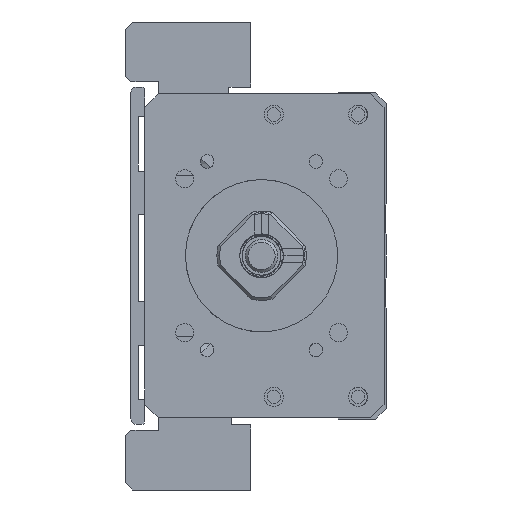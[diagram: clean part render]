
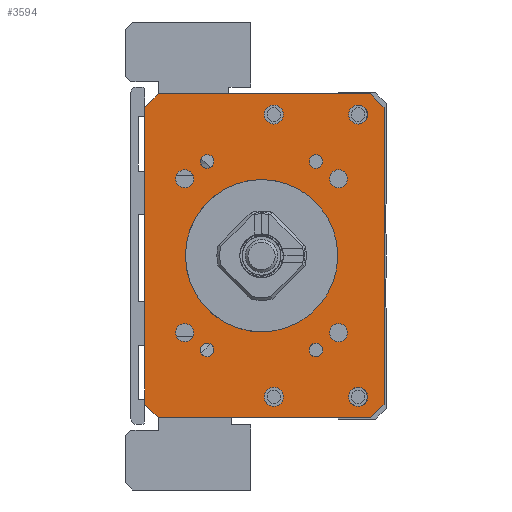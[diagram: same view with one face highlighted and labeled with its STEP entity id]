
A CAD part, left-side view. The second image highlights one B-rep face of the part: STEP entity #3594.
In plain terms, the highlighted planar face has unit normal (-1, 0, 0).
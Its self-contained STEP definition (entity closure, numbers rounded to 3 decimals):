
#826=LINE('',#19589,#1801);
#828=LINE('',#19613,#1803);
#829=LINE('',#19615,#1804);
#830=LINE('',#19617,#1805);
#831=LINE('',#19619,#1806);
#832=LINE('',#19621,#1807);
#833=LINE('',#19623,#1808);
#834=LINE('',#19625,#1809);
#1801=VECTOR('',#15565,1.);
#1803=VECTOR('',#15589,1.);
#1804=VECTOR('',#15590,1.);
#1805=VECTOR('',#15591,1.);
#1806=VECTOR('',#15592,1.);
#1807=VECTOR('',#15593,1.);
#1808=VECTOR('',#15594,1.);
#1809=VECTOR('',#15595,1.);
#3006=FACE_BOUND('',#5516,.T.);
#3007=FACE_BOUND('',#5517,.T.);
#3008=FACE_BOUND('',#5518,.T.);
#3009=FACE_BOUND('',#5519,.T.);
#3010=FACE_BOUND('',#5520,.T.);
#3011=FACE_BOUND('',#5521,.T.);
#3012=FACE_BOUND('',#5522,.T.);
#3013=FACE_BOUND('',#5523,.T.);
#3014=FACE_BOUND('',#5524,.T.);
#3015=FACE_BOUND('',#5525,.T.);
#3016=FACE_BOUND('',#5526,.T.);
#3017=FACE_BOUND('',#5527,.T.);
#3018=FACE_BOUND('',#5528,.T.);
#3019=FACE_BOUND('',#5529,.T.);
#3594=ADVANCED_FACE('',(#3006,#3007,#3008,#3009,#3010,#3011,#3012,#3013,
#3014,#3015,#3016,#3017,#3018,#3019),#4225,.F.);
#4225=PLANE('',#13396);
#5516=EDGE_LOOP('',(#7410));
#5517=EDGE_LOOP('',(#7411));
#5518=EDGE_LOOP('',(#7412));
#5519=EDGE_LOOP('',(#7413));
#5520=EDGE_LOOP('',(#7414));
#5521=EDGE_LOOP('',(#7415));
#5522=EDGE_LOOP('',(#7416));
#5523=EDGE_LOOP('',(#7417));
#5524=EDGE_LOOP('',(#7418));
#5525=EDGE_LOOP('',(#7419,#7420,#7421,#7422,#7423,#7424,#7425,#7426));
#5526=EDGE_LOOP('',(#7427));
#5527=EDGE_LOOP('',(#7428));
#5528=EDGE_LOOP('',(#7429));
#5529=EDGE_LOOP('',(#7430));
#7410=ORIENTED_EDGE('',*,*,#11323,.F.);
#7411=ORIENTED_EDGE('',*,*,#11324,.F.);
#7412=ORIENTED_EDGE('',*,*,#11325,.F.);
#7413=ORIENTED_EDGE('',*,*,#11326,.F.);
#7414=ORIENTED_EDGE('',*,*,#11327,.F.);
#7415=ORIENTED_EDGE('',*,*,#11328,.T.);
#7416=ORIENTED_EDGE('',*,*,#11329,.F.);
#7417=ORIENTED_EDGE('',*,*,#11330,.F.);
#7418=ORIENTED_EDGE('',*,*,#11331,.F.);
#7419=ORIENTED_EDGE('',*,*,#11320,.T.);
#7420=ORIENTED_EDGE('',*,*,#11332,.T.);
#7421=ORIENTED_EDGE('',*,*,#11333,.F.);
#7422=ORIENTED_EDGE('',*,*,#11334,.T.);
#7423=ORIENTED_EDGE('',*,*,#11335,.F.);
#7424=ORIENTED_EDGE('',*,*,#11336,.T.);
#7425=ORIENTED_EDGE('',*,*,#11337,.T.);
#7426=ORIENTED_EDGE('',*,*,#11338,.T.);
#7427=ORIENTED_EDGE('',*,*,#11339,.F.);
#7428=ORIENTED_EDGE('',*,*,#11340,.F.);
#7429=ORIENTED_EDGE('',*,*,#11341,.F.);
#7430=ORIENTED_EDGE('',*,*,#11300,.F.);
#9948=VERTEX_POINT('',#19528);
#9968=VERTEX_POINT('',#19588);
#9969=VERTEX_POINT('',#19590);
#9971=VERTEX_POINT('',#19596);
#9972=VERTEX_POINT('',#19598);
#9973=VERTEX_POINT('',#19600);
#9974=VERTEX_POINT('',#19602);
#9975=VERTEX_POINT('',#19604);
#9976=VERTEX_POINT('',#19606);
#9977=VERTEX_POINT('',#19608);
#9978=VERTEX_POINT('',#19610);
#9979=VERTEX_POINT('',#19612);
#9980=VERTEX_POINT('',#19614);
#9981=VERTEX_POINT('',#19616);
#9982=VERTEX_POINT('',#19618);
#9983=VERTEX_POINT('',#19620);
#9984=VERTEX_POINT('',#19622);
#9985=VERTEX_POINT('',#19624);
#9986=VERTEX_POINT('',#19627);
#9987=VERTEX_POINT('',#19629);
#9988=VERTEX_POINT('',#19631);
#11300=EDGE_CURVE('',#9948,#9948,#12576,.T.);
#11320=EDGE_CURVE('',#9969,#9968,#826,.T.);
#11323=EDGE_CURVE('',#9971,#9971,#12585,.T.);
#11324=EDGE_CURVE('',#9972,#9972,#12586,.T.);
#11325=EDGE_CURVE('',#9973,#9973,#12587,.T.);
#11326=EDGE_CURVE('',#9974,#9974,#12588,.T.);
#11327=EDGE_CURVE('',#9975,#9975,#12589,.T.);
#11328=EDGE_CURVE('',#9976,#9976,#12590,.T.);
#11329=EDGE_CURVE('',#9977,#9977,#12591,.T.);
#11330=EDGE_CURVE('',#9978,#9978,#12592,.T.);
#11331=EDGE_CURVE('',#9979,#9979,#12593,.T.);
#11332=EDGE_CURVE('',#9968,#9980,#828,.T.);
#11333=EDGE_CURVE('',#9981,#9980,#829,.T.);
#11334=EDGE_CURVE('',#9981,#9982,#830,.T.);
#11335=EDGE_CURVE('',#9983,#9982,#831,.T.);
#11336=EDGE_CURVE('',#9983,#9984,#832,.T.);
#11337=EDGE_CURVE('',#9984,#9985,#833,.T.);
#11338=EDGE_CURVE('',#9985,#9969,#834,.T.);
#11339=EDGE_CURVE('',#9986,#9986,#12594,.T.);
#11340=EDGE_CURVE('',#9987,#9987,#12595,.T.);
#11341=EDGE_CURVE('',#9988,#9988,#12596,.T.);
#12576=CIRCLE('',#13373,14.);
#12585=CIRCLE('',#13384,1.65);
#12586=CIRCLE('',#13385,1.65);
#12587=CIRCLE('',#13386,1.65);
#12588=CIRCLE('',#13387,1.65);
#12589=CIRCLE('',#13388,1.25);
#12590=CIRCLE('',#13389,1.75);
#12591=CIRCLE('',#13390,1.25);
#12592=CIRCLE('',#13391,1.75);
#12593=CIRCLE('',#13392,1.25);
#12594=CIRCLE('',#13393,1.75);
#12595=CIRCLE('',#13394,1.75);
#12596=CIRCLE('',#13395,1.25);
#13373=AXIS2_PLACEMENT_3D('',#19527,#15539,#15540);
#13384=AXIS2_PLACEMENT_3D('',#19595,#15571,#15572);
#13385=AXIS2_PLACEMENT_3D('',#19597,#15573,#15574);
#13386=AXIS2_PLACEMENT_3D('',#19599,#15575,#15576);
#13387=AXIS2_PLACEMENT_3D('',#19601,#15577,#15578);
#13388=AXIS2_PLACEMENT_3D('',#19603,#15579,#15580);
#13389=AXIS2_PLACEMENT_3D('',#19605,#15581,#15582);
#13390=AXIS2_PLACEMENT_3D('',#19607,#15583,#15584);
#13391=AXIS2_PLACEMENT_3D('',#19609,#15585,#15586);
#13392=AXIS2_PLACEMENT_3D('',#19611,#15587,#15588);
#13393=AXIS2_PLACEMENT_3D('',#19626,#15596,#15597);
#13394=AXIS2_PLACEMENT_3D('',#19628,#15598,#15599);
#13395=AXIS2_PLACEMENT_3D('',#19630,#15600,#15601);
#13396=AXIS2_PLACEMENT_3D('',#19632,#15602,#15603);
#15539=DIRECTION('',(-1.,0.,0.));
#15540=DIRECTION('',(0.,1.,0.));
#15565=DIRECTION('',(0.,0.,-1.));
#15571=DIRECTION('',(-1.,0.,0.));
#15572=DIRECTION('',(0.,0.,1.));
#15573=DIRECTION('',(-1.,0.,0.));
#15574=DIRECTION('',(0.,0.,1.));
#15575=DIRECTION('',(-1.,0.,0.));
#15576=DIRECTION('',(0.,0.,1.));
#15577=DIRECTION('',(-1.,0.,0.));
#15578=DIRECTION('',(0.,0.,1.));
#15579=DIRECTION('',(-1.,0.,0.));
#15580=DIRECTION('',(0.,1.,0.));
#15581=DIRECTION('',(1.,0.,0.));
#15582=DIRECTION('',(0.,0.,1.));
#15583=DIRECTION('',(-1.,0.,0.));
#15584=DIRECTION('',(0.,1.,0.));
#15585=DIRECTION('',(-1.,0.,0.));
#15586=DIRECTION('',(0.,0.,1.));
#15587=DIRECTION('',(-1.,0.,0.));
#15588=DIRECTION('',(0.,1.,0.));
#15589=DIRECTION('',(0.,-0.707,-0.707));
#15590=DIRECTION('',(0.,1.,0.));
#15591=DIRECTION('',(0.,-0.707,0.707));
#15592=DIRECTION('',(0.,0.,-1.));
#15593=DIRECTION('',(0.,0.707,0.707));
#15594=DIRECTION('',(0.,1.,0.));
#15595=DIRECTION('',(0.,0.707,-0.707));
#15596=DIRECTION('',(-1.,0.,0.));
#15597=DIRECTION('',(0.,0.,1.));
#15598=DIRECTION('',(-1.,0.,0.));
#15599=DIRECTION('',(0.,0.,1.));
#15600=DIRECTION('',(-1.,0.,0.));
#15601=DIRECTION('',(0.,1.,0.));
#15602=DIRECTION('',(1.,0.,0.));
#15603=DIRECTION('',(0.,1.,0.));
#19527=CARTESIAN_POINT('',(-211.,0.,0.));
#19528=CARTESIAN_POINT('',(-211.,14.,0.));
#19588=CARTESIAN_POINT('',(-211.,21.499,-27.25));
#19589=CARTESIAN_POINT('',(-211.,21.499,29.75));
#19590=CARTESIAN_POINT('',(-211.,21.499,27.25));
#19595=CARTESIAN_POINT('',(-211.,14.142,14.142));
#19596=CARTESIAN_POINT('',(-211.,14.142,15.792));
#19597=CARTESIAN_POINT('',(-211.,-14.142,14.142));
#19598=CARTESIAN_POINT('',(-211.,-14.142,15.792));
#19599=CARTESIAN_POINT('',(-211.,14.142,-14.142));
#19600=CARTESIAN_POINT('',(-211.,14.142,-12.492));
#19601=CARTESIAN_POINT('',(-211.,-14.142,-14.142));
#19602=CARTESIAN_POINT('',(-211.,-14.142,-12.492));
#19603=CARTESIAN_POINT('',(-211.,-10.,-17.321));
#19604=CARTESIAN_POINT('',(-211.,-8.75,-17.321));
#19605=CARTESIAN_POINT('',(-211.,-2.25,-25.936));
#19606=CARTESIAN_POINT('',(-211.,-2.25,-24.186));
#19607=CARTESIAN_POINT('',(-211.,10.,17.321));
#19608=CARTESIAN_POINT('',(-211.,11.25,17.321));
#19609=CARTESIAN_POINT('',(-211.,-2.25,25.936));
#19610=CARTESIAN_POINT('',(-211.,-2.25,27.686));
#19611=CARTESIAN_POINT('',(-211.,10.,-17.321));
#19612=CARTESIAN_POINT('',(-211.,11.25,-17.321));
#19613=CARTESIAN_POINT('',(-211.,18.999,-29.75));
#19614=CARTESIAN_POINT('',(-211.,18.999,-29.75));
#19615=CARTESIAN_POINT('',(-211.,-22.501,-29.75));
#19616=CARTESIAN_POINT('',(-211.,-20.001,-29.75));
#19617=CARTESIAN_POINT('',(-211.,-22.501,-27.25));
#19618=CARTESIAN_POINT('',(-211.,-22.501,-27.25));
#19619=CARTESIAN_POINT('',(-211.,-22.501,29.75));
#19620=CARTESIAN_POINT('',(-211.,-22.501,27.25));
#19621=CARTESIAN_POINT('',(-211.,-22.501,27.25));
#19622=CARTESIAN_POINT('',(-211.,-20.001,29.75));
#19623=CARTESIAN_POINT('',(-211.,-22.501,29.75));
#19624=CARTESIAN_POINT('',(-211.,18.999,29.75));
#19625=CARTESIAN_POINT('',(-211.,18.999,29.75));
#19626=CARTESIAN_POINT('',(-211.,-17.75,25.936));
#19627=CARTESIAN_POINT('',(-211.,-17.75,27.686));
#19628=CARTESIAN_POINT('',(-211.,-17.75,-25.936));
#19629=CARTESIAN_POINT('',(-211.,-17.75,-24.186));
#19630=CARTESIAN_POINT('',(-211.,-10.,17.321));
#19631=CARTESIAN_POINT('',(-211.,-8.75,17.321));
#19632=CARTESIAN_POINT('',(-211.,-22.501,29.75));
